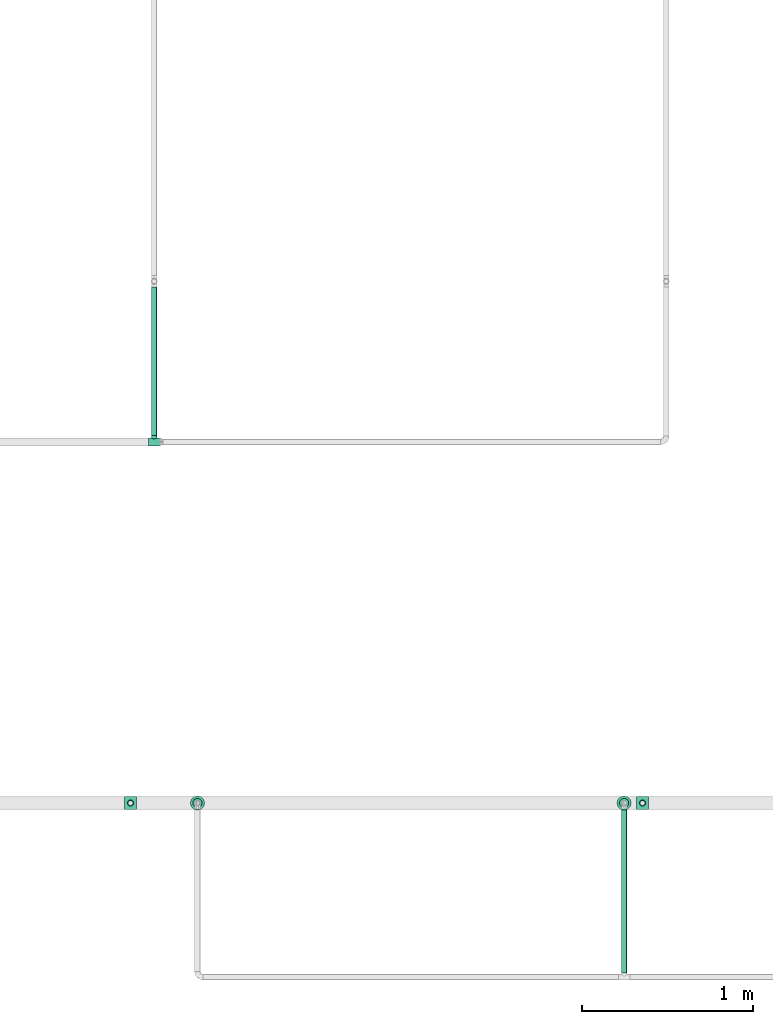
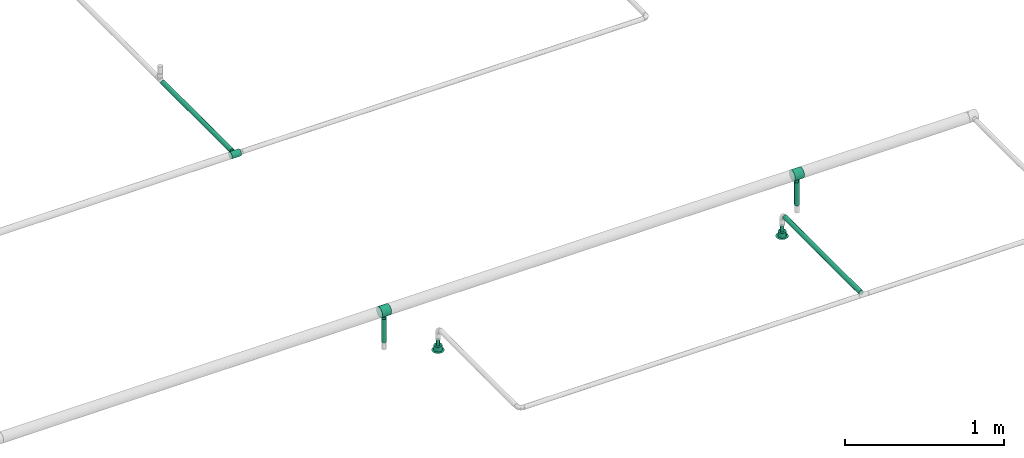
# One storey, part 14 of 45: 4 flow segments, 3 flow fittings, 2 flow terminals.
"""IFC2X3 building model written with IfcOpenShell, lengths in millimetres."""

from ifc_helpers import new_model, entity, si_unit, converted_unit, derived_unit, direction, frame, origin_with_axes, origin_2d_with_axis, place, context, subcontext, project, spatial, hollow_circle, extrude, open_shell, surface_model, source, transform, mapped, type_object, element, save


model = new_model("IFC2X3")

# Units and contexts
model_context = context("Model", 3, precision=0.01, world=frame((0.0, 4.29681676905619e-09, 0.0)), true_north=direction((4.01073788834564e-13, 1.0)))
plan_context = context("Plan", 3, precision=0.01, world=frame((0.0, 4.29681676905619e-09, 0.0)), true_north=direction((4.01073788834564e-13, 1.0)))
body_context = subcontext(model_context, "Body", "Model", "MODEL_VIEW")
ifc_project = project(units=[converted_unit("PLANEANGLEUNIT", "DEGREE", entity("IfcPositiveLengthMeasure", 0.0174532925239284), si_unit("PLANEANGLEUNIT", "RADIAN"), dimensions=[0, 0, 0, 0, 0, 0, 0]), si_unit("AREAUNIT", "SQUARE_METRE"), si_unit("LENGTHUNIT", "METRE", prefix="MILLI"), si_unit("MASSUNIT", "GRAM", prefix="KILO"), si_unit("POWERUNIT", "WATT"), si_unit("PRESSUREUNIT", "PASCAL", prefix="KILO"), si_unit("FORCEUNIT", "NEWTON", prefix="KILO"), si_unit("ELECTRICVOLTAGEUNIT", "VOLT"), si_unit("ELECTRICCURRENTUNIT", "AMPERE"), si_unit("THERMODYNAMICTEMPERATUREUNIT", "DEGREE_CELSIUS"), si_unit("TIMEUNIT", "SECOND"), si_unit("VOLUMEUNIT", "CUBIC_METRE"), derived_unit("LINEARVELOCITYUNIT", [(si_unit("LENGTHUNIT", "METRE"), 1), (si_unit("TIMEUNIT", "SECOND"), -1)]), derived_unit("VOLUMETRICFLOWRATEUNIT", [(si_unit("VOLUMEUNIT", "CUBIC_METRE"), 1), (si_unit("TIMEUNIT", "SECOND"), -1)]), derived_unit("THERMALTRANSMITTANCEUNIT", [(si_unit("POWERUNIT", "WATT"), 1), (si_unit("THERMODYNAMICTEMPERATUREUNIT", "KELVIN"), -1), (si_unit("AREAUNIT", "SQUARE_METRE"), -1)]), derived_unit("SOUNDPRESSUREUNIT", [(si_unit("PRESSUREUNIT", "PASCAL"), 1)])], contexts=[model_context, plan_context])

# Site, building, storey
site_placement = place(None, frame((0.0, -4.29681676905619e-09, 0.0), z_axis=(0.0, 0.0, 1.0), x_axis=(1.0, 0.0, 0.0)))
site = spatial("IfcSite", under=ifc_project, at=site_placement, CompositionType="ELEMENT")
building_placement = place(site_placement, frame((0.0, 4.29681676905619e-09, 0.0), z_axis=(0.0, 0.0, 1.0), x_axis=(1.0, 0.0, 0.0)))
building = spatial("IfcBuilding", under=site, at=building_placement, Name="mc-building", CompositionType="ELEMENT")
storey_placement = place(building_placement, frame((0.0, 0.0, 210200.0), z_axis=(0.0, 0.0, 1.0), x_axis=(1.0, 0.0, 0.0)))
storey = spatial("IfcBuildingStorey", under=building, at=storey_placement, Name="Nivå F - 0,7 m", CompositionType="ELEMENT", Elevation=210200.0)

# Flow fittings
pipe_fitting_type = type_object("IfcPipeFittingType", Name="magi_pipe_fe_tee_centric_90_001", PredefinedType="JUNCTION")
shared_shape_1 = source(origin_with_axes(), body_context, "Body", "SurfaceModel", [
    surface_model("IfcShellBasedSurfaceModel", [(-33.8, 9.86101, -36.80177), (-33.8, 0.0, -38.1), (-33.8, 36.80177, -9.86101), (-33.8, 19.05, -32.99557), (-33.8, 32.99557, -19.05), (-33.8, 26.94077, -26.94077), (-33.8, -38.1, 0.0), (-33.8, -19.05, -32.99557), (-33.8, -26.94077, -26.94077), (-33.8, -9.86101, -36.80177), (-33.8, -32.99557, -19.05), (-33.8, -36.80177, -9.86101), (-33.8, 38.1, 0.0), (-33.8, 32.99557, 19.05), (-33.8, 36.80177, 9.86101), (-33.8, -36.80177, 9.86101), (-33.8, 19.05, 32.99557), (-33.8, 26.94077, 26.94077), (-33.8, 9.86101, 36.80177), (-33.8, 0.0, 38.1), (-33.8, -26.94077, 26.94077), (-33.8, -32.99557, 19.05), (-33.8, -9.86101, 36.80177), (-33.8, -19.05, 32.99557), (33.8, 0.0, -38.1), (33.8, 9.86101, -36.80177), (33.8, 19.05, -32.99557), (33.8, 26.94077, -26.94077), (33.8, 32.99557, -19.05), (33.8, 36.80177, -9.86101), (33.8, -38.1, 0.0), (33.8, -9.86101, -36.80177), (33.8, -26.94077, -26.94077), (33.8, -19.05, -32.99557), (33.8, -32.99557, -19.05), (33.8, -36.80177, -9.86101), (33.8, 36.80177, 9.86101), (33.8, 32.99557, 19.05), (33.8, 19.05, 32.99557), (33.8, 0.0, 38.1), (33.8, 26.94077, 26.94077), (33.8, 9.86101, 36.80177), (33.8, -26.94077, 26.94077), (33.8, -32.99557, 19.05), (33.8, -36.80177, 9.86101), (33.8, -19.05, 32.99557), (33.8, -9.86101, 36.80177), (33.8, 38.1, 0.0), (33.8, -37.45089, 4.9305), (15.86072, -37.65053, 5.83504), (16.9, -38.1, 0.0), (12.92726, -36.51183, 10.88559), (2.96752, -34.27545, 16.63742), (33.8, -34.89867, 14.4555), (8.48894, -35.18611, 14.61328), (-8.4904, -35.18646, 14.61243), (-33.8, -34.89867, 14.4555), (-15.8612, -37.65073, 5.83372), (-33.8, -37.45089, 4.9305), (-16.9, -38.1, 0.0), (-12.9317, -36.51341, 10.88031), (-2.97221, -34.27585, 16.63658), (-33.8, -37.45089, -4.9305), (-15.8612, -37.65073, -5.83372), (15.86072, -37.65053, -5.83504), (33.8, -37.45089, -4.9305), (-12.9317, -36.51341, -10.88031), (-33.8, -34.89867, -14.4555), (-8.4904, -35.18646, -14.61243), (2.96752, -34.27545, -16.63742), (8.48894, -35.18611, -14.61328), (33.8, -34.89867, -14.4555), (12.92726, -36.51183, -10.88559), (-2.97221, -34.27585, -16.63658), (4.37404, -57.15, -16.32415), (-16.9, -57.15, 0.0), (0.0, -57.15, -16.9), (14.63583, -57.15, -8.45), (8.45, -57.15, -14.63583), (16.32415, -57.15, -4.37404), (11.9501, -57.15, -11.9501), (-11.9501, -57.15, -11.9501), (-8.45, -57.15, -14.63583), (-4.37404, -57.15, -16.32415), (-14.63583, -57.15, -8.45), (-16.32415, -57.15, -4.37404), (16.9, -57.15, 0.0), (8.45, -57.15, 14.63583), (16.32415, -57.15, 4.37404), (14.63583, -57.15, 8.45), (-8.45, -57.15, 14.63583), (11.9501, -57.15, 11.9501), (4.37404, -57.15, 16.32415), (-16.32415, -57.15, 4.37404), (-11.9501, -57.15, 11.9501), (-14.63583, -57.15, 8.45), (0.0, -57.15, 16.9), (-4.37404, -57.15, 16.32415), (-16.3806, -37.87537, 2.91686), (-5.7313, -34.73116, 15.62451), (-0.00235, -34.27565, 16.637), (5.72823, -34.73078, 15.62535), (16.38036, -37.87526, 2.91752), (16.38036, -37.87526, -2.91752), (5.72823, -34.73078, -15.62535), (-0.00235, -34.27565, -16.637), (-5.7313, -34.73116, -15.62451), (-16.3806, -37.87537, -2.91686)], [open_shell([[[0, 1, 2]], [[3, 0, 2]], [[2, 4, 5]], [[3, 2, 5]], [[6, 2, 1]], [[7, 8, 9]], [[8, 1, 9]], [[10, 11, 8]], [[6, 8, 11]], [[8, 6, 1]], [[6, 12, 2]], [[13, 14, 12]], [[15, 13, 6]], [[16, 13, 15]], [[17, 13, 16]], [[18, 16, 19]], [[20, 19, 21]], [[16, 15, 21]], [[22, 19, 23]], [[20, 23, 19]], [[21, 19, 16]], [[12, 6, 13]], [[24, 25, 26]], [[24, 26, 27]], [[27, 28, 29]], [[24, 27, 30]], [[30, 27, 29]], [[31, 32, 33]], [[31, 24, 32]], [[34, 30, 35]], [[30, 34, 32]], [[24, 30, 32]], [[29, 36, 30]], [[36, 37, 30]], [[30, 37, 38]], [[38, 39, 30]], [[38, 37, 40]], [[39, 38, 41]], [[30, 42, 43]], [[44, 30, 43]], [[45, 39, 46]], [[45, 42, 30]], [[30, 39, 45]], [[36, 29, 47]], [[48, 44, 49]], [[50, 30, 48]], [[44, 51, 49]], [[43, 42, 52]], [[50, 48, 49]], [[44, 53, 51]], [[52, 54, 43]], [[42, 20, 52]], [[54, 53, 43]], [[55, 21, 56]], [[57, 58, 59]], [[6, 59, 58]], [[57, 60, 15]], [[55, 61, 21]], [[51, 53, 54]], [[15, 60, 56]], [[21, 61, 20]], [[56, 60, 55]], [[61, 52, 20]], [[57, 15, 58]], [[42, 23, 20]], [[19, 46, 39]], [[22, 45, 46]], [[18, 39, 41]], [[37, 36, 14]], [[17, 38, 40]], [[13, 40, 37]], [[41, 38, 16]], [[12, 36, 47]], [[23, 45, 22]], [[22, 46, 19]], [[18, 19, 39]], [[41, 16, 18]], [[16, 38, 17]], [[13, 17, 40]], [[14, 13, 37]], [[36, 12, 14]], [[45, 23, 42]], [[12, 47, 29]], [[29, 28, 2]], [[59, 62, 63]], [[27, 4, 28]], [[9, 24, 31]], [[0, 26, 25]], [[64, 35, 65]], [[24, 1, 25]], [[31, 33, 7]], [[27, 26, 5]], [[66, 67, 68]], [[4, 2, 28]], [[12, 29, 2]], [[27, 5, 4]], [[3, 26, 0]], [[26, 3, 5]], [[0, 25, 1]], [[9, 1, 24]], [[31, 7, 9]], [[33, 8, 7]], [[32, 34, 69]], [[70, 34, 71]], [[70, 69, 34]], [[35, 72, 71]], [[32, 69, 8]], [[30, 50, 65]], [[64, 72, 35]], [[64, 65, 50]], [[72, 70, 71]], [[73, 68, 10]], [[10, 8, 73]], [[68, 67, 10]], [[73, 8, 69]], [[66, 63, 11]], [[63, 62, 11]], [[62, 59, 6]], [[11, 67, 66]], [[32, 8, 33]], [[74, 75, 76]], [[77, 74, 78]], [[77, 79, 74]], [[77, 78, 80]], [[75, 74, 79]], [[76, 81, 82]], [[82, 83, 76]], [[84, 75, 85]], [[81, 76, 84]], [[75, 84, 76]], [[79, 86, 75]], [[87, 86, 88]], [[87, 88, 89]], [[90, 75, 87]], [[87, 89, 91]], [[90, 87, 92]], [[93, 94, 95]], [[94, 93, 90]], [[90, 96, 97]], [[93, 75, 90]], [[92, 96, 90]], [[87, 75, 86]], [[93, 98, 75]], [[60, 95, 94]], [[93, 95, 57]], [[94, 90, 55]], [[98, 59, 75]], [[57, 95, 60]], [[97, 61, 99]], [[55, 60, 94]], [[96, 52, 100]], [[87, 101, 92]], [[99, 90, 97]], [[99, 55, 90]], [[93, 57, 98]], [[92, 52, 96]], [[49, 89, 88]], [[102, 86, 50]], [[102, 49, 88]], [[91, 89, 51]], [[96, 61, 97]], [[101, 52, 92]], [[87, 54, 101]], [[87, 91, 54]], [[54, 91, 51]], [[51, 89, 49]], [[86, 102, 88]], [[100, 61, 96]], [[79, 103, 86]], [[72, 77, 80]], [[79, 77, 64]], [[80, 78, 70]], [[103, 50, 86]], [[64, 77, 72]], [[74, 69, 104]], [[70, 72, 80]], [[76, 73, 105]], [[82, 106, 83]], [[107, 75, 59]], [[104, 78, 74]], [[104, 70, 78]], [[68, 82, 81]], [[79, 64, 103]], [[63, 84, 85]], [[107, 63, 85]], [[84, 66, 81]], [[76, 69, 74]], [[83, 106, 73]], [[73, 76, 83]], [[68, 106, 82]], [[68, 81, 66]], [[66, 84, 63]], [[75, 107, 85]], [[105, 69, 76]]])]),
])
for number, where, z_axis, x_axis, name in (
    (1, (347518.61043, 460120.00018, 2938.0), (0.0, 1.0, 0.0), (-1.0, 0.0, 0.0), "magi_pipe_fe_tee_centric_90_001"),
    (2, (344518.61043, 460120.00018, 2938.0), (0.0, 1.0, 0.0), (-1.0, 0.0, 0.0), "magi_pipe_fe_tee_centric_90_001"),
):
    element("IfcFlowFitting", number, at=place(storey_placement, frame(where, z_axis=z_axis, x_axis=x_axis)), inside=storey, type_object=pipe_fitting_type, Name=name, context=body_context, shape_type="MappedRepresentation", body=[
        mapped(shared_shape_1, transform((0.0, 0.0, 0.0), scale=1.0)),
    ])
shared_shape_2 = source(origin_with_axes(), body_context, "Body", "SurfaceModel", [
    surface_model("IfcShellBasedSurfaceModel", [(-33.8, 0.0, -24.2), (-33.8, -6.26342, -23.37541), (-33.8, 6.26342, -23.37541), (-33.8, 12.1, -20.95781), (-33.8, 17.11198, -17.11198), (-33.8, 20.95781, -12.1), (-33.8, -23.37541, -6.26342), (-33.8, 23.37541, -6.26342), (-33.8, -17.11198, -17.11198), (-33.8, -20.95781, -12.1), (-33.8, -12.1, -20.95781), (-33.8, -24.2, 0.0), (-33.8, -23.37541, 6.26342), (-33.8, 20.95781, 12.1), (-33.8, 23.37541, 6.26342), (-33.8, 24.2, 0.0), (-33.8, 12.1, 20.95781), (-33.8, 17.11198, 17.11198), (-33.8, -17.11198, 17.11198), (-33.8, 6.26342, 23.37541), (-33.8, -20.95781, 12.1), (-33.8, -12.1, 20.95781), (-33.8, -6.26342, 23.37541), (-33.8, 0.0, 24.2), (33.8, 6.26342, -23.37541), (33.8, -6.26342, -23.37541), (33.8, 0.0, -24.2), (33.8, 17.11198, -17.11198), (33.8, 12.1, -20.95781), (33.8, -23.37541, -6.26342), (33.8, 20.95781, -12.1), (33.8, 23.37541, -6.26342), (33.8, -17.11198, -17.11198), (33.8, -12.1, -20.95781), (33.8, -20.95781, -12.1), (33.8, -24.2, 0.0), (33.8, 24.2, 0.0), (33.8, 23.37541, 6.26342), (33.8, 20.95781, 12.1), (33.8, -23.37541, 6.26342), (33.8, -17.11198, 17.11198), (33.8, 12.1, 20.95781), (33.8, 17.11198, 17.11198), (33.8, 6.26342, 23.37541), (33.8, -20.95781, 12.1), (33.8, -12.1, 20.95781), (33.8, 0.0, 24.2), (33.8, -6.26342, 23.37541), (15.81824, -23.45734, 5.94922), (16.9, -24.2, 0.0), (12.87025, -21.57947, 10.95293), (33.8, -19.0349, 14.60599), (8.52813, -19.30697, 14.59044), (3.03527, -17.5853, 16.6252), (-3.04044, -17.58619, 16.62425), (-8.52961, -19.30762, 14.58958), (-33.8, -19.0349, 14.60599), (-16.9, -24.2, 0.0), (-15.81885, -23.45775, 5.9476), (-12.87368, -21.58151, 10.9489), (3.03527, -17.5853, -16.6252), (33.8, -19.0349, -14.60599), (8.52813, -19.30697, -14.59044), (-8.52961, -19.30762, -14.58958), (-33.8, -19.0349, -14.60599), (12.87025, -21.57947, -10.95293), (-3.04044, -17.58619, -16.62425), (15.81824, -23.45734, -5.94922), (-12.87368, -21.58151, -10.9489), (-15.81885, -23.45775, -5.9476), (4.37404, -36.3, -16.32415), (-16.9, -36.3, 0.0), (0.0, -36.3, -16.9), (14.63583, -36.3, -8.45), (8.45, -36.3, -14.63583), (16.32415, -36.3, -4.37404), (11.9501, -36.3, -11.9501), (-11.9501, -36.3, -11.9501), (-8.45, -36.3, -14.63583), (-4.37404, -36.3, -16.32415), (-14.63583, -36.3, -8.45), (-16.32415, -36.3, -4.37404), (16.9, -36.3, 0.0), (8.45, -36.3, 14.63583), (16.32415, -36.3, 4.37404), (14.63583, -36.3, 8.45), (-8.45, -36.3, 14.63583), (11.9501, -36.3, 11.9501), (4.37404, -36.3, 16.32415), (-16.32415, -36.3, 4.37404), (-11.9501, -36.3, 11.9501), (-14.63583, -36.3, 8.45), (0.0, -36.3, 16.9), (-4.37404, -36.3, 16.32415), (-16.35943, -23.82888, 2.9738), (16.35912, -23.82867, 2.97461), (-0.00259, -17.58575, 16.62472), (16.35912, -23.82867, -2.97461), (-0.00259, -17.58575, -16.62472), (-16.35943, -23.82888, -2.9738)], [open_shell([[[0, 1, 2]], [[3, 2, 4]], [[5, 2, 6]], [[4, 2, 5]], [[7, 5, 6]], [[8, 9, 10]], [[1, 10, 9]], [[1, 9, 2]], [[9, 6, 2]], [[6, 11, 7]], [[11, 12, 7]], [[13, 14, 15]], [[13, 15, 12]], [[16, 17, 18]], [[12, 17, 13]], [[19, 16, 18]], [[20, 18, 12]], [[18, 17, 12]], [[21, 22, 18]], [[23, 18, 22]], [[18, 23, 19]], [[7, 12, 15]], [[24, 25, 26]], [[27, 24, 28]], [[29, 24, 30]], [[30, 24, 27]], [[29, 30, 31]], [[25, 32, 33]], [[32, 25, 34]], [[24, 34, 25]], [[24, 29, 34]], [[31, 35, 29]], [[31, 36, 35]], [[36, 37, 38]], [[39, 36, 38]], [[40, 38, 41]], [[41, 38, 42]], [[40, 41, 43]], [[39, 40, 44]], [[39, 38, 40]], [[45, 46, 47]], [[46, 45, 40]], [[43, 46, 40]], [[36, 39, 35]], [[35, 39, 48]], [[48, 49, 35]], [[39, 50, 48]], [[51, 40, 52]], [[52, 50, 44]], [[53, 52, 40]], [[54, 53, 21]], [[44, 50, 39]], [[55, 18, 56]], [[57, 58, 11]], [[12, 11, 58]], [[58, 59, 12]], [[55, 54, 18]], [[55, 20, 59]], [[20, 55, 56]], [[59, 20, 12]], [[18, 54, 21]], [[52, 44, 51]], [[53, 40, 45]], [[23, 47, 46]], [[22, 45, 47]], [[19, 46, 43]], [[38, 37, 14]], [[17, 41, 42]], [[13, 42, 38]], [[43, 41, 16]], [[15, 37, 36]], [[21, 45, 22]], [[22, 47, 23]], [[19, 23, 46]], [[43, 16, 19]], [[16, 41, 17]], [[13, 17, 42]], [[14, 13, 38]], [[37, 15, 14]], [[45, 21, 53]], [[5, 31, 30]], [[7, 36, 31]], [[4, 30, 27]], [[26, 25, 1]], [[2, 28, 24]], [[0, 24, 26]], [[27, 28, 3]], [[10, 25, 33]], [[15, 36, 7]], [[7, 31, 5]], [[4, 5, 30]], [[27, 3, 4]], [[3, 28, 2]], [[0, 2, 24]], [[1, 0, 26]], [[25, 10, 1]], [[33, 60, 10]], [[61, 34, 62]], [[63, 9, 64]], [[62, 60, 32]], [[34, 65, 62]], [[66, 10, 60]], [[29, 35, 67]], [[67, 65, 29]], [[49, 67, 35]], [[29, 65, 34]], [[66, 63, 8]], [[62, 32, 61]], [[64, 8, 63]], [[63, 68, 9]], [[8, 10, 66]], [[68, 69, 6]], [[69, 11, 6]], [[11, 69, 57]], [[68, 6, 9]], [[60, 33, 32]], [[70, 71, 72]], [[73, 70, 74]], [[73, 75, 70]], [[73, 74, 76]], [[71, 70, 75]], [[72, 77, 78]], [[78, 79, 72]], [[80, 71, 81]], [[77, 72, 80]], [[71, 80, 72]], [[75, 82, 71]], [[83, 82, 84]], [[83, 84, 85]], [[86, 71, 83]], [[83, 85, 87]], [[86, 83, 88]], [[89, 90, 91]], [[90, 89, 86]], [[86, 92, 93]], [[89, 71, 86]], [[88, 92, 86]], [[83, 71, 82]], [[89, 94, 71]], [[59, 91, 90]], [[89, 91, 58]], [[90, 86, 55]], [[89, 58, 94]], [[94, 57, 71]], [[58, 91, 59]], [[95, 48, 84]], [[55, 93, 54]], [[55, 59, 90]], [[92, 53, 96]], [[55, 86, 93]], [[53, 92, 88]], [[83, 52, 88]], [[87, 85, 50]], [[87, 52, 83]], [[48, 85, 84]], [[87, 50, 52]], [[52, 53, 88]], [[82, 95, 84]], [[48, 50, 85]], [[95, 82, 49]], [[92, 54, 93]], [[96, 54, 92]], [[75, 97, 82]], [[65, 73, 76]], [[75, 73, 67]], [[76, 74, 62]], [[97, 49, 82]], [[67, 73, 65]], [[62, 70, 60]], [[62, 65, 76]], [[72, 66, 98]], [[62, 74, 70]], [[99, 71, 57]], [[99, 69, 81]], [[75, 67, 97]], [[79, 66, 72]], [[69, 80, 81]], [[77, 80, 68]], [[72, 60, 70]], [[79, 63, 66]], [[63, 79, 78]], [[78, 77, 63]], [[63, 77, 68]], [[68, 80, 69]], [[71, 99, 81]], [[98, 60, 72]]])]),
])
flow_fitting_placement = place(storey_placement, frame((344657.5, 462235.84736, 2810.46812000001), z_axis=(0.0, 2.69999999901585e-05, -0.9999999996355), x_axis=(1.0, 0.0, 0.0)))
element("IfcFlowFitting", 3, at=flow_fitting_placement, inside=storey, type_object=pipe_fitting_type, Name="magi_pipe_fe_tee_centric_90_001", context=body_context, shape_type="MappedRepresentation", body=[
    mapped(shared_shape_2, transform((0.0, 0.0, 0.0), scale=1.0)),
])

# Flow segments
pipe_segment_type = type_object("IfcPipeSegmentType", Name="Stålrør normaltykke", PredefinedType="RIGIDSEGMENT")
shared_shape_3 = source(origin_with_axes(), body_context, "Body", "SweptSolid", [
    extrude(hollow_circle(Radius=16.9, WallThickness=2.0, at=origin_2d_with_axis()), frame((0.0, 0.0, 0.0), z_axis=(1.0, 0.0, 0.0), x_axis=(0.0, 1.0, 0.0)), (0.0, 0.0, 1.0), 176.9),
])
for number, where, z_axis, x_axis in (
    (4, (344518.61043, 460120.00018, 2703.95199999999), (1.0, 0.0, 0.0), (0.0, 0.0, 1.0)),
    (5, (347518.61043, 460120.00018, 2703.95199999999), (1.0, 0.0, 0.0), (0.0, 0.0, 1.0)),
):
    element("IfcFlowSegment", number, at=place(storey_placement, frame(where, z_axis=z_axis, x_axis=x_axis)), inside=storey, type_object=pipe_segment_type, Name="Stålrør normaltykke", context=body_context, shape_type="MappedRepresentation", body=[
        mapped(shared_shape_3, transform((0.0, 0.0, 0.0), scale=1.0)),
    ])
shared_shape_4 = source(origin_with_axes(), body_context, "Body", "SweptSolid", [
    extrude(hollow_circle(Radius=16.9, WallThickness=2.0, at=origin_2d_with_axis()), frame((0.0, 0.0, 0.0), z_axis=(1.0, 0.0, 0.0), x_axis=(0.0, 1.0, 0.0)), (0.0, 0.0, 1.0), 870.9),
])
flow_segment_1_placement = place(storey_placement, frame((344657.5, 463143.00156, 2810.44542), z_axis=(0.0, 2.5999999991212e-05, 0.999999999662), x_axis=(0.0, -0.999999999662, 2.5999999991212e-05)))
element("IfcFlowSegment", 6, at=flow_segment_1_placement, inside=storey, type_object=pipe_segment_type, Name="Stålrør normaltykke", context=body_context, shape_type="MappedRepresentation", body=[
    mapped(shared_shape_4, transform((0.0, 0.0, 0.0), scale=1.0)),
])
shared_shape_5 = source(origin_with_axes(), body_context, "Body", "SweptSolid", [
    extrude(hollow_circle(Radius=16.9, WallThickness=2.0, at=origin_2d_with_axis()), frame((0.0, 0.0, 0.0), z_axis=(1.0, 0.0, 0.0), x_axis=(0.0, 1.0, 0.0)), (0.0, 0.0, 1.0), 960.8),
])
flow_segment_2_placement = place(storey_placement, frame((347410.95175, 460086.19918, 2665.799), z_axis=(-7.999999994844e-06, -3.49999999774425e-05, 0.9999999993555), x_axis=(3.999999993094e-11, -0.9999999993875, -3.49999999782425e-05)))
element("IfcFlowSegment", 7, at=flow_segment_2_placement, inside=storey, type_object=pipe_segment_type, Name="Stålrør normaltykke", context=body_context, shape_type="MappedRepresentation", body=[
    mapped(shared_shape_5, transform((0.0, 0.0, 0.0), scale=1.0)),
])

# Flow terminals
fire_suppression_terminal_type = type_object("IfcFireSuppressionTerminalType", Name="V3617DRYK5.6STD68", PredefinedType="NOTDEFINED")
shared_shape_6 = source(origin_with_axes(), body_context, "Body", "SurfaceModel", [
    surface_model("IfcShellBasedSurfaceModel", [(0.0, -27.0, 0.0), (6.98811, -26.08, 0.0), (13.5, -23.38269, 0.0), (-6.98811, -26.08, 0.0), (23.38269, -13.5, 0.0), (26.08, -6.98811, 0.0), (19.09188, -19.09188, 0.0), (-13.5, -23.38269, 0.0), (-23.38269, -13.5, 0.0), (-19.09188, -19.09188, 0.0), (-26.08, -6.98811, 0.0), (-26.08, 6.98811, 0.0), (-27.0, 0.0, 0.0), (26.08, 6.98811, 0.0), (19.09188, 19.09188, 0.0), (23.38269, 13.5, 0.0), (13.5, 23.38269, 0.0), (6.98811, 26.08, 0.0), (-19.09188, 19.09188, 0.0), (-23.38269, 13.5, 0.0), (-6.98811, 26.08, 0.0), (-13.5, 23.38269, 0.0), (0.0, 27.0, 0.0), (27.0, 0.0, 0.0), (6.98811, 26.08, -38.0), (-19.09188, 19.09188, -38.0), (0.0, 27.0, -38.0), (19.09188, 19.09188, -38.0), (13.5, 23.38269, -38.0), (23.38269, 13.5, -38.0), (26.08, 6.98811, -38.0), (-6.98811, 26.08, -38.0), (-13.5, 23.38269, -38.0), (-26.08, 6.98811, -38.0), (-23.38269, 13.5, -38.0), (-26.08, -6.98811, -38.0), (-27.0, 0.0, -38.0), (-6.98811, -26.08, -38.0), (26.08, -6.98811, -38.0), (19.09188, -19.09188, -38.0), (23.38269, -13.5, -38.0), (13.5, -23.38269, -38.0), (0.0, -27.0, -38.0), (6.98811, -26.08, -38.0), (-23.38269, -13.5, -38.0), (-13.5, -23.38269, -38.0), (-19.09188, -19.09188, -38.0), (27.0, 0.0, -38.0), (0.0, 42.0, 0.0), (21.0, 36.37307, 0.0), (36.37307, 21.0, 0.0), (36.37307, -21.0, 0.0), (-21.0, 36.37307, 0.0), (-36.37307, 21.0, 0.0), (42.0, 0.0, 0.0), (21.0, -36.37307, 0.0), (0.0, -42.0, 0.0), (-36.37307, -21.0, 0.0), (-42.0, 0.0, 0.0), (-21.0, -36.37307, 0.0), (-25.88854, -18.80913, 5.0), (25.88854, 18.80913, 5.0), (-9.88854, 30.43381, 5.0), (9.88854, 30.43381, 5.0), (32.0, 0.0, 5.0), (25.88854, -18.80913, 5.0), (-25.88854, 18.80913, 5.0), (-32.0, 0.0, 5.0), (9.88854, -30.43381, 5.0), (-9.88854, -30.43381, 5.0), (40.07221, 7.19461, 0.0), (28.94427, 9.40456, 5.0), (38.14442, 14.38922, 0.0), (-17.88854, 24.62147, 5.0), (-28.68653, 28.68653, 0.0), (-28.94427, 9.40456, 5.0), (-40.07221, 7.19461, 0.0), (17.88854, 24.62147, 5.0), (10.5, 39.18653, 0.0), (0.0, 30.43381, 5.0), (-38.14442, 14.38922, 0.0), (28.68653, 28.68653, 0.0), (-10.5, 39.18653, 0.0), (-40.07221, -7.19461, 0.0), (-28.94427, -9.40456, 5.0), (-38.14442, -14.38922, 0.0), (17.88854, -24.62147, 5.0), (28.68653, -28.68653, 0.0), (28.94427, -9.40456, 5.0), (40.07221, -7.19461, 0.0), (-17.88854, -24.62147, 5.0), (-10.5, -39.18653, 0.0), (0.0, -30.43381, 5.0), (38.14442, -14.38922, 0.0), (-28.68653, -28.68653, 0.0), (10.5, -39.18653, 0.0), (3.23524, -12.07407, -38.0), (-6.25, -10.82532, -38.0), (0.0, -12.5, -38.0), (10.82532, -6.25, -38.0), (6.25, -10.82532, -38.0), (12.07407, -3.23524, -38.0), (8.83883, -8.83883, -38.0), (-12.07407, -3.23524, -38.0), (-10.82532, -6.25, -38.0), (-8.83883, -8.83883, -38.0), (-3.23524, -12.07407, -38.0), (-12.07407, 3.23524, -38.0), (-12.5, 0.0, -38.0), (12.07407, 3.23524, -38.0), (-8.83883, 8.83883, -38.0), (8.83883, 8.83883, -38.0), (10.82532, 6.25, -38.0), (6.25, 10.82532, -38.0), (3.23524, 12.07407, -38.0), (0.0, 12.5, -38.0), (-10.82532, 6.25, -38.0), (-3.23524, 12.07407, -38.0), (-6.25, 10.82532, -38.0), (12.5, 0.0, -38.0), (12.07407, 3.23524, -82.0), (0.0, 12.5, -82.0), (3.23524, 12.07407, -82.0), (6.25, 10.82532, -82.0), (8.83883, 8.83883, -82.0), (10.82532, 6.25, -82.0), (-8.83883, 8.83883, -82.0), (-3.23524, 12.07407, -82.0), (-6.25, 10.82532, -82.0), (-12.07407, 3.23524, -82.0), (-10.82532, 6.25, -82.0), (-12.07407, -3.23524, -82.0), (-12.5, 0.0, -82.0), (12.07407, -3.23524, -82.0), (3.23524, -12.07407, -82.0), (10.82532, -6.25, -82.0), (8.83883, -8.83883, -82.0), (6.25, -10.82532, -82.0), (-6.25, -10.82532, -82.0), (-10.82532, -6.25, -82.0), (-8.83883, -8.83883, -82.0), (0.0, -12.5, -82.0), (-3.23524, -12.07407, -82.0), (12.5, 0.0, -82.0)], [open_shell([[[0, 1, 2]], [[3, 0, 2]], [[4, 5, 2]], [[4, 2, 6]], [[3, 2, 5]], [[7, 8, 9]], [[8, 7, 3]], [[10, 11, 12]], [[11, 8, 3]], [[10, 8, 11]], [[11, 3, 5]], [[11, 5, 13]], [[14, 13, 15]], [[14, 16, 17]], [[13, 14, 18]], [[17, 18, 14]], [[11, 18, 19]], [[11, 13, 18]], [[18, 20, 21]], [[20, 18, 22]], [[17, 22, 18]], [[13, 5, 23]], [[24, 25, 26]], [[27, 24, 28]], [[27, 29, 30]], [[24, 27, 25]], [[30, 25, 27]], [[31, 25, 32]], [[31, 26, 25]], [[25, 33, 34]], [[30, 33, 25]], [[33, 35, 36]], [[33, 30, 37]], [[38, 37, 30]], [[39, 38, 40]], [[37, 38, 41]], [[41, 38, 39]], [[42, 41, 43]], [[44, 45, 46]], [[35, 33, 44]], [[44, 37, 45]], [[37, 44, 33]], [[41, 42, 37]], [[38, 30, 47]], [[10, 36, 35]], [[8, 35, 44]], [[7, 45, 37]], [[3, 37, 42]], [[35, 8, 10]], [[10, 12, 36]], [[46, 9, 8]], [[9, 46, 7]], [[7, 46, 45]], [[37, 3, 7]], [[46, 8, 44]], [[42, 0, 3]], [[1, 43, 41]], [[39, 2, 41]], [[4, 40, 38]], [[39, 40, 6]], [[5, 38, 47]], [[43, 1, 0]], [[41, 2, 1]], [[39, 6, 2]], [[40, 4, 6]], [[5, 4, 38]], [[47, 23, 5]], [[43, 0, 42]], [[30, 13, 47]], [[29, 15, 30]], [[29, 27, 14]], [[27, 28, 16]], [[30, 15, 13]], [[13, 23, 47]], [[24, 17, 16]], [[22, 17, 24]], [[14, 27, 16]], [[14, 15, 29]], [[28, 24, 16]], [[24, 26, 22]], [[20, 31, 32]], [[25, 21, 32]], [[19, 34, 33]], [[25, 34, 18]], [[11, 33, 36]], [[31, 20, 22]], [[32, 21, 20]], [[25, 18, 21]], [[34, 19, 18]], [[11, 19, 33]], [[36, 12, 11]], [[31, 22, 26]], [[48, 49, 50]], [[50, 51, 52]], [[50, 52, 48]], [[53, 52, 51]], [[50, 54, 51]], [[55, 56, 53]], [[53, 56, 57]], [[57, 58, 53]], [[57, 56, 59]], [[53, 51, 55]], [[60, 61, 62]], [[62, 61, 63]], [[64, 61, 65]], [[62, 66, 67]], [[60, 68, 61]], [[68, 65, 61]], [[68, 60, 69]], [[62, 67, 60]], [[64, 70, 71]], [[50, 71, 72]], [[73, 74, 66]], [[53, 75, 66]], [[76, 58, 67]], [[49, 63, 77]], [[73, 62, 52]], [[74, 73, 52]], [[63, 78, 79]], [[70, 64, 54]], [[67, 75, 76]], [[53, 80, 75]], [[61, 81, 77]], [[82, 52, 62]], [[63, 49, 78]], [[49, 77, 81]], [[81, 61, 50]], [[71, 50, 61]], [[82, 79, 48]], [[78, 48, 79]], [[62, 79, 82]], [[75, 80, 76]], [[53, 66, 74]], [[70, 72, 71]], [[67, 83, 84]], [[57, 84, 85]], [[86, 87, 65]], [[51, 88, 65]], [[89, 54, 64]], [[59, 69, 90]], [[86, 68, 55]], [[87, 86, 55]], [[69, 91, 92]], [[83, 67, 58]], [[64, 88, 89]], [[51, 93, 88]], [[60, 94, 90]], [[95, 55, 68]], [[69, 59, 91]], [[59, 90, 94]], [[94, 60, 57]], [[84, 57, 60]], [[95, 92, 56]], [[91, 56, 92]], [[68, 92, 95]], [[88, 93, 89]], [[51, 65, 87]], [[83, 85, 84]], [[96, 97, 98]], [[99, 96, 100]], [[99, 101, 96]], [[99, 100, 102]], [[103, 96, 101]], [[97, 104, 105]], [[97, 106, 98]], [[97, 103, 104]], [[96, 103, 97]], [[103, 107, 108]], [[103, 101, 109]], [[103, 109, 110]], [[111, 109, 112]], [[111, 113, 114]], [[109, 111, 110]], [[114, 115, 111]], [[107, 110, 116]], [[103, 110, 107]], [[110, 117, 118]], [[117, 110, 115]], [[111, 115, 110]], [[109, 101, 119]], [[120, 121, 122]], [[120, 122, 123]], [[124, 125, 120]], [[124, 120, 123]], [[121, 120, 126]], [[127, 126, 128]], [[127, 121, 126]], [[126, 129, 130]], [[129, 126, 131]], [[131, 132, 129]], [[131, 126, 120]], [[131, 120, 133]], [[134, 133, 135]], [[136, 137, 134]], [[136, 134, 135]], [[138, 133, 134]], [[139, 138, 140]], [[138, 139, 131]], [[138, 141, 142]], [[138, 131, 133]], [[134, 141, 138]], [[133, 120, 143]], [[131, 103, 132]], [[139, 104, 131]], [[97, 140, 138]], [[139, 140, 105]], [[106, 138, 142]], [[131, 104, 103]], [[103, 108, 132]], [[106, 97, 138]], [[105, 140, 97]], [[105, 104, 139]], [[98, 106, 142]], [[142, 141, 98]], [[134, 96, 141]], [[137, 100, 134]], [[99, 136, 135]], [[137, 136, 102]], [[101, 135, 133]], [[137, 102, 100]], [[100, 96, 134]], [[119, 101, 133]], [[99, 135, 101]], [[99, 102, 136]], [[143, 119, 133]], [[141, 96, 98]], [[120, 109, 143]], [[125, 112, 120]], [[113, 124, 123]], [[125, 124, 111]], [[114, 123, 122]], [[120, 112, 109]], [[109, 119, 143]], [[114, 113, 123]], [[111, 124, 113]], [[111, 112, 125]], [[115, 114, 122]], [[122, 121, 115]], [[127, 117, 121]], [[128, 118, 127]], [[116, 126, 130]], [[128, 126, 110]], [[107, 130, 129]], [[128, 110, 118]], [[118, 117, 127]], [[108, 107, 129]], [[116, 130, 107]], [[116, 110, 126]], [[132, 108, 129]], [[121, 117, 115]]])]),
])
for number, where, z_axis, x_axis, name in (
    (8, (344910.95175, 460120.00018, 2500.0), (0.0, 0.0, -1.0), (-1.0, 0.0, 0.0), "V3617DRYK5.6STD68"),
    (9, (347410.95175, 460120.00018, 2500.0), (0.0, 0.0, -1.0), (-1.0, 0.0, 0.0), "V3617DRYK5.6STD68"),
):
    element("IfcFlowTerminal", number, at=place(storey_placement, frame(where, z_axis=z_axis, x_axis=x_axis)), inside=storey, type_object=fire_suppression_terminal_type, Name=name, context=body_context, shape_type="MappedRepresentation", body=[
        mapped(shared_shape_6, transform((0.0, 0.0, 0.0), scale=1.0)),
    ])

save(model, "model.ifc")
